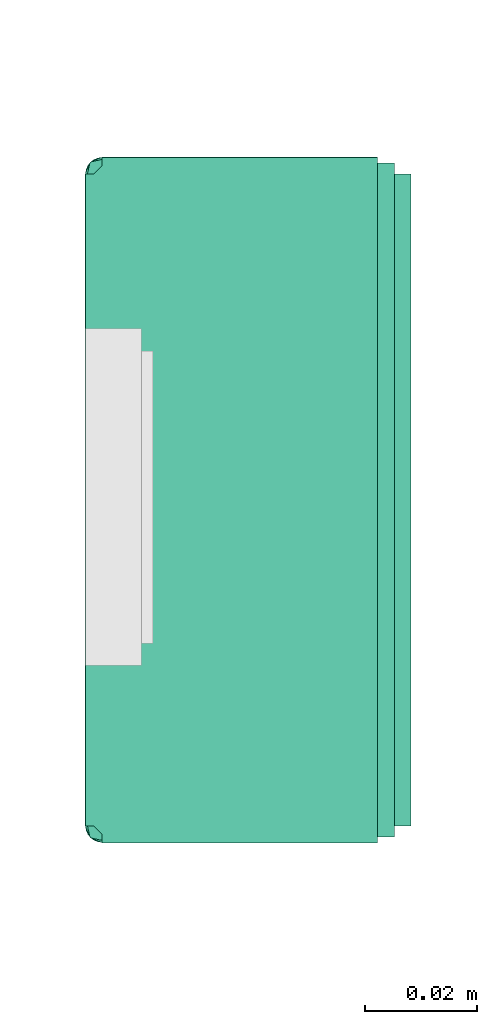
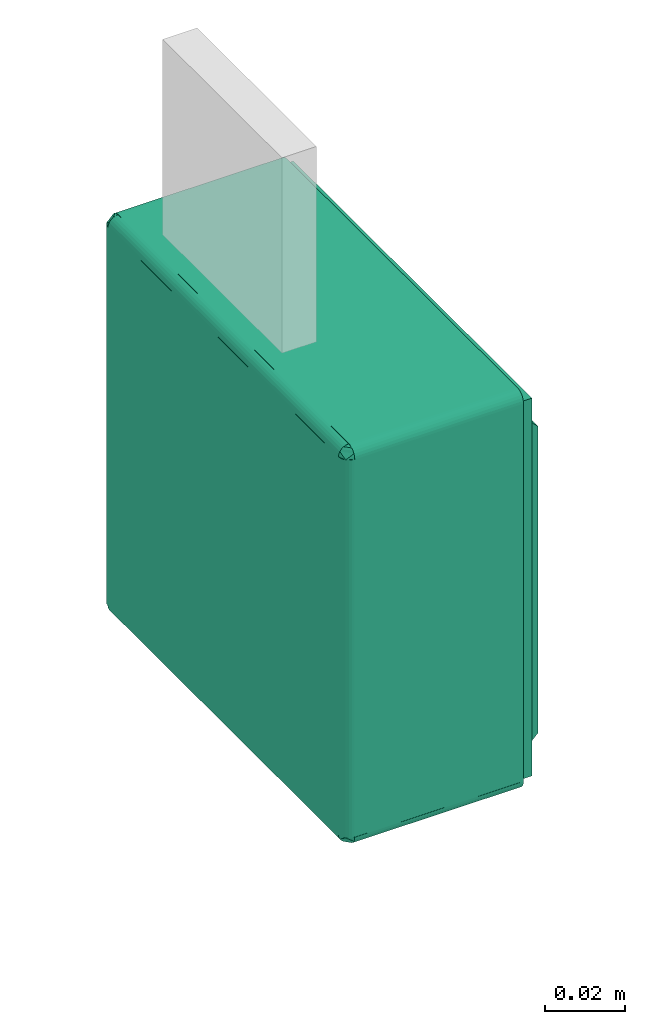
# One storey, part 5 of 5: 1 distribution control element.
"""IFC2X3 building model written with IfcOpenShell, lengths in millimetres."""

from ifc_helpers import new_model, entity, si_unit, converted_unit, derived_unit, direction, frame, origin_with_axes, place, context, subcontext, project, spatial, open_shell, surface_model, source, transform, mapped, type_object, element, save


model = new_model("IFC2X3")

# Units and contexts
model_context = context("Model", 3, precision=0.01, world=frame((0.0, 4.29681676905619e-09, 0.0)), true_north=direction((4.01073788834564e-13, 1.0)))
plan_context = context("Plan", 3, precision=0.01, world=frame((0.0, 4.29681676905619e-09, 0.0)), true_north=direction((4.01073788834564e-13, 1.0)))
body_context = subcontext(model_context, "Body", "Model", "MODEL_VIEW")
ifc_project = project(units=[converted_unit("PLANEANGLEUNIT", "DEGREE", entity("IfcPositiveLengthMeasure", 0.0174532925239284), si_unit("PLANEANGLEUNIT", "RADIAN"), dimensions=[0, 0, 0, 0, 0, 0, 0]), si_unit("AREAUNIT", "SQUARE_METRE"), si_unit("LENGTHUNIT", "METRE", prefix="MILLI"), si_unit("MASSUNIT", "GRAM", prefix="KILO"), si_unit("POWERUNIT", "WATT"), si_unit("PRESSUREUNIT", "PASCAL", prefix="KILO"), si_unit("FORCEUNIT", "NEWTON", prefix="KILO"), si_unit("ELECTRICVOLTAGEUNIT", "VOLT"), si_unit("ELECTRICCURRENTUNIT", "AMPERE"), si_unit("THERMODYNAMICTEMPERATUREUNIT", "DEGREE_CELSIUS"), si_unit("TIMEUNIT", "SECOND"), si_unit("VOLUMEUNIT", "CUBIC_METRE"), derived_unit("LINEARVELOCITYUNIT", [(si_unit("LENGTHUNIT", "METRE"), 1), (si_unit("TIMEUNIT", "SECOND"), -1)]), derived_unit("VOLUMETRICFLOWRATEUNIT", [(si_unit("VOLUMEUNIT", "CUBIC_METRE"), 1), (si_unit("TIMEUNIT", "SECOND"), -1)]), derived_unit("THERMALTRANSMITTANCEUNIT", [(si_unit("POWERUNIT", "WATT"), 1), (si_unit("THERMODYNAMICTEMPERATUREUNIT", "KELVIN"), -1), (si_unit("AREAUNIT", "SQUARE_METRE"), -1)]), derived_unit("SOUNDPRESSUREUNIT", [(si_unit("PRESSUREUNIT", "PASCAL"), 1)])], contexts=[model_context, plan_context])

# Site, building, storey
site_placement = place(None, frame((0.0, -4.29681676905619e-09, 0.0), z_axis=(0.0, 0.0, 1.0), x_axis=(1.0, 0.0, 0.0)))
site = spatial("IfcSite", under=ifc_project, at=site_placement, Name="ENGM", CompositionType="ELEMENT")
building_placement = place(site_placement, frame((0.0, 4.29681676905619e-09, 0.0), z_axis=(0.0, 0.0, 1.0), x_axis=(1.0, 0.0, 0.0)))
building = spatial("IfcBuilding", under=site, at=building_placement, Name="TI", CompositionType="ELEMENT")
storey_placement = place(building_placement, frame((0.0, 0.0, 210900.0), z_axis=(0.0, 0.0, 1.0), x_axis=(1.0, 0.0, 0.0)))
storey = spatial("IfcBuildingStorey", under=building, at=storey_placement, Name="Nivå F", CompositionType="ELEMENT", Elevation=210900.0)

# Distribution control element
alarm_type = type_object("IfcAlarmType", Name="CONTROL UNIT", PredefinedType="NOTDEFINED")
shared_shape = source(origin_with_axes(), body_context, "Body", "SurfaceModel", [
    surface_model("IfcShellBasedSurfaceModel", [(58.0, 55.0, -50.0), (50.05331, 55.0, -35.88319), (-49.94669, 55.0, -35.88319), (58.0, 55.0, 50.0), (-58.0, 55.0, -50.0), (-58.0, 55.0, 50.0), (50.05331, 55.0, 40.0), (-49.94669, 55.0, 40.0), (-58.0, 58.0, -47.0), (-49.94669, 58.0, -35.88319), (58.0, 58.0, -47.0), (-58.0, 58.0, 47.0), (50.05331, 58.0, -35.88319), (58.0, 58.0, 47.0), (-49.94669, 58.0, 40.0), (50.05331, 58.0, 40.0), (60.0, 52.03664, -58.0), (50.05331, 52.03664, -35.88319), (-49.94669, 52.03664, -35.88319), (60.0, 52.03664, 58.0), (-60.0, 52.03664, -58.0), (-60.0, 52.03664, 58.0), (50.05331, 52.03664, 40.0), (-49.94669, 52.03664, 40.0), (60.0, 55.03664, 58.0), (50.05331, 55.03664, 40.0), (-49.94669, 55.03664, 40.0), (50.05331, 55.03664, -35.88319), (-60.0, 55.03664, 58.0), (-49.94669, 55.03664, -35.88319), (60.0, 55.03664, -58.0), (-60.0, 55.03664, -58.0), (61.0, 52.0, -58.0), (50.05331, 52.0, -35.88319), (61.0, 52.0, 58.0), (-49.94669, 52.0, -35.88319), (50.05331, 52.0, 40.0), (-49.94669, 52.0, 40.0), (-61.0, 52.0, -58.0), (-61.0, 52.0, 58.0), (-61.0, 3.0, 58.0), (-61.0, 3.0, -58.0), (61.0, 3.0, 58.0), (61.0, 3.0, -58.0), (50.05331, 48.40679, 40.0), (-49.94669, 48.40679, 40.0), (-49.94669, 48.40679, -35.88319), (50.05331, 48.40679, -35.88319), (-58.0, 3.0, -58.0), (-58.0, 1.5, -60.59808), (-58.0, 2.22354, -60.89778), (-58.0, 0.87868, -60.12132), (-58.0, 3.0, -61.0), (-58.0, 0.40192, -59.5), (-58.0, 0.10222, -58.77646), (-58.0, 0.0, -58.0), (-58.77646, 3.0, -60.89778), (-59.5, 3.0, -60.59808), (-60.12132, 3.0, -60.12132), (-60.89778, 3.0, -58.77646), (-60.59808, 3.0, -59.5), (-60.12132, 0.87868, -58.0), (58.0, 3.0, -58.0), (-58.0, 52.0, -58.0), (58.0, 52.0, -58.0), (-58.0, 52.0, -61.0), (58.0, 52.0, -61.0), (58.0, 3.0, -61.0), (59.5, 3.0, -60.59808), (58.77646, 3.0, -60.89778), (60.12132, 3.0, -60.12132), (60.89778, 3.0, -58.77646), (60.59808, 3.0, -59.5), (58.0, 2.22354, -60.89778), (58.0, 1.5, -60.59808), (58.0, 0.87868, -60.12132), (58.0, 0.10222, -58.77646), (58.0, 0.40192, -59.5), (58.0, 0.0, -58.0), (60.12132, 0.87868, -58.0), (60.93149, 52.0, -58.78549), (60.6283, 52.0, -59.51745), (60.146, 52.0, -60.146), (61.03491, 52.0, -58.0), (59.51745, 52.0, -60.6283), (58.78549, 52.0, -60.93149), (58.0, 52.0, -61.03491), (60.6283, 3.0, -59.51745), (60.93149, 3.0, -58.78549), (60.146, 3.0, -60.146), (61.03491, 3.0, -58.0), (58.78549, 3.0, -60.93149), (59.51745, 3.0, -60.6283), (58.0, 3.0, -61.03491), (-58.0, 0.14042, -58.76622), (-58.0, 0.03955, -58.0), (-58.0, 0.90664, -60.09336), (-58.0, 0.43617, -59.48023), (-58.0, 1.51977, -60.56383), (-58.0, 2.23378, -60.85958), (-58.0, 3.0, -60.96045), (58.0, 0.03955, -58.0), (58.0, 0.14042, -58.76622), (58.0, 0.43617, -59.48023), (58.0, 0.90664, -60.09336), (58.0, 2.23378, -60.85958), (58.0, 1.51977, -60.56383), (58.0, 3.0, -60.96045), (-57.99994, 52.0, -58.00004), (-60.85952, 52.0, -58.76627), (-60.96039, 52.0, -58.00004), (-60.09329, 52.0, -60.0934), (-60.56376, 52.0, -59.48027), (-59.48016, 52.0, -60.56387), (-58.76616, 52.0, -60.85963), (-57.99994, 52.0, -60.9605), (-60.96039, 3.0, -58.00004), (-60.85952, 3.0, -58.76627), (-57.99994, 3.0, -58.00004), (-60.56376, 3.0, -59.48027), (-60.09329, 3.0, -60.0934), (-58.76616, 3.0, -60.85963), (-59.48016, 3.0, -60.56387), (-57.99994, 3.0, -60.9605), (58.0, 3.0, 61.0), (58.77646, 3.0, 60.89778), (58.0, 3.0, 58.0), (59.5, 3.0, 60.59808), (60.12132, 3.0, 60.12132), (60.89778, 3.0, 58.77646), (60.59808, 3.0, 59.5), (58.0, 2.22354, 60.89778), (58.0, 0.87868, 60.12132), (58.0, 1.5, 60.59808), (58.0, 0.40192, 59.5), (58.0, 0.10222, 58.77646), (58.0, 0.0, 58.0), (60.12132, 0.87868, 58.0), (-58.0, 3.0, 58.0), (-59.5, 3.0, 60.59808), (-58.77646, 3.0, 60.89778), (-60.12132, 3.0, 60.12132), (-58.0, 3.0, 61.0), (-60.89778, 3.0, 58.77646), (-60.59808, 3.0, 59.5), (-58.0, 2.22354, 60.89778), (-58.0, 1.5, 60.59808), (-58.0, 0.87868, 60.12132), (-58.0, 0.40192, 59.5), (-58.0, 0.10222, 58.77646), (-58.0, 0.0, 58.0), (-60.12132, 0.87868, 58.0), (58.0, 52.0, 61.0), (-58.0, 52.0, 61.0), (-58.0, 52.0, 58.0), (58.0, 52.0, 58.0), (60.93149, 3.0, 58.78549), (60.6283, 3.0, 59.51745), (60.146, 3.0, 60.146), (61.03491, 3.0, 58.0), (58.78549, 3.0, 60.93149), (59.51745, 3.0, 60.6283), (58.0, 3.0, 61.03491), (60.6283, 52.0, 59.51745), (60.93149, 52.0, 58.78549), (60.146, 52.0, 60.146), (61.03491, 52.0, 58.0), (59.51745, 52.0, 60.6283), (58.78549, 52.0, 60.93149), (58.0, 52.0, 61.03491), (57.99759, 3.00092, -58.0), (58.76381, 0.14134, -58.0), (57.99759, 0.04046, -58.0), (60.09094, 0.90756, -58.0), (59.47781, 0.43709, -58.0), (60.56141, 1.52069, -58.0), (60.85716, 2.2347, -58.0), (60.95804, 3.00092, -58.0), (57.99759, 0.04046, 58.0), (58.76381, 0.14134, 58.0), (57.99759, 3.00092, 58.0), (59.47781, 0.43709, 58.0), (60.09094, 0.90756, 58.0), (60.85716, 2.2347, 58.0), (60.56141, 1.52069, 58.0), (60.95804, 3.00092, 58.0), (58.0, 3.004, 58.0008), (58.0, 0.14442, 58.76702), (58.0, 0.04355, 58.0008), (58.0, 0.91064, 60.09415), (58.0, 0.44017, 59.48102), (58.0, 1.52377, 60.56462), (58.0, 2.23778, 60.86037), (58.0, 3.004, 60.96125), (-58.0, 0.04355, 58.0008), (-58.0, 0.14442, 58.76702), (-58.0, 3.004, 58.0008), (-58.0, 0.44017, 59.48102), (-58.0, 0.91064, 60.09415), (-58.0, 2.23778, 60.86037), (-58.0, 1.52377, 60.56462), (-58.0, 3.004, 60.96125), (-58.76623, 0.14041, 58.0), (-58.0, 0.03954, 58.0), (-60.09336, 0.90664, 58.0), (-59.48023, 0.43616, 58.0), (-60.56383, 1.51977, 58.0), (-60.85958, 2.23377, 58.0), (-60.96046, 2.99999, 58.0), (-58.76623, 0.14041, -58.0), (-59.48023, 0.43616, -58.0), (-60.09336, 0.90664, -58.0), (-60.85958, 2.23377, -58.0), (-60.56383, 1.51977, -58.0), (-60.96046, 2.99999, -58.0), (-60.85958, 3.0, 58.76622), (-60.09336, 3.0, 60.09336), (-60.56383, 3.0, 59.48023), (-59.48023, 3.0, 60.56383), (-58.76622, 3.0, 60.85958), (-58.0, 3.0, 60.96045), (-60.96045, 52.0, 58.0), (-60.85958, 52.0, 58.76622), (-60.56383, 52.0, 59.48023), (-60.09336, 52.0, 60.09336), (-58.76622, 52.0, 60.85958), (-59.48023, 52.0, 60.56383), (-58.0, 52.0, 60.96045)], [open_shell([[[0, 1, 2]], [[1, 0, 3]], [[4, 2, 5]], [[2, 4, 0]], [[6, 3, 7]], [[3, 6, 1]], [[7, 5, 2]], [[5, 7, 3]], [[8, 9, 10]], [[9, 8, 11]], [[10, 12, 13]], [[12, 10, 9]], [[14, 11, 13]], [[11, 14, 9]], [[15, 13, 12]], [[13, 15, 14]], [[0, 10, 13]], [[13, 3, 0]], [[3, 13, 11]], [[11, 5, 3]], [[5, 11, 4]], [[8, 4, 11]], [[4, 8, 10]], [[10, 0, 4]], [[14, 15, 6]], [[6, 7, 14]], [[12, 9, 2]], [[2, 1, 12]], [[2, 14, 7]], [[14, 2, 9]], [[1, 6, 15]], [[15, 12, 1]], [[16, 17, 18]], [[17, 16, 19]], [[20, 18, 21]], [[18, 20, 16]], [[22, 19, 23]], [[19, 22, 17]], [[23, 21, 18]], [[21, 23, 19]], [[24, 25, 26]], [[25, 24, 27]], [[28, 26, 29]], [[26, 28, 24]], [[27, 30, 29]], [[30, 27, 24]], [[29, 31, 28]], [[31, 29, 30]], [[19, 16, 30]], [[30, 24, 19]], [[21, 19, 24]], [[24, 28, 21]], [[20, 21, 28]], [[28, 31, 20]], [[16, 20, 31]], [[31, 30, 16]], [[26, 25, 22]], [[22, 23, 26]], [[27, 29, 18]], [[18, 17, 27]], [[29, 26, 23]], [[23, 18, 29]], [[17, 22, 25]], [[25, 27, 17]], [[32, 33, 34]], [[33, 32, 35]], [[34, 36, 37]], [[36, 34, 33]], [[35, 38, 39]], [[38, 35, 32]], [[37, 39, 34]], [[39, 37, 35]], [[40, 41, 42]], [[43, 42, 41]], [[38, 32, 43]], [[43, 41, 38]], [[39, 38, 41]], [[41, 40, 39]], [[34, 39, 40]], [[40, 42, 34]], [[32, 34, 42]], [[42, 43, 32]], [[37, 36, 44]], [[44, 45, 37]], [[33, 35, 46]], [[46, 47, 33]], [[46, 37, 45]], [[37, 46, 35]], [[46, 45, 44]], [[44, 47, 46]], [[47, 44, 36]], [[36, 33, 47]], [[48, 49, 50]], [[49, 48, 51]], [[50, 52, 48]], [[53, 48, 54]], [[51, 48, 53]], [[54, 48, 55]], [[56, 57, 48]], [[58, 48, 57]], [[48, 52, 56]], [[59, 48, 60]], [[60, 48, 58]], [[41, 48, 59]], [[61, 48, 41]], [[48, 61, 55]], [[51, 53, 58]], [[49, 51, 57]], [[54, 61, 53]], [[50, 49, 52]], [[54, 55, 61]], [[61, 41, 59]], [[61, 59, 60]], [[57, 51, 58]], [[53, 60, 58]], [[49, 57, 52]], [[52, 57, 56]], [[53, 61, 60]], [[48, 62, 63]], [[64, 63, 62]], [[65, 66, 52]], [[67, 52, 66]], [[64, 62, 67]], [[67, 66, 64]], [[63, 64, 66]], [[66, 65, 63]], [[48, 63, 65]], [[65, 52, 48]], [[62, 48, 52]], [[52, 67, 62]], [[62, 68, 69]], [[68, 62, 70]], [[69, 67, 62]], [[71, 72, 62]], [[70, 62, 72]], [[62, 43, 71]], [[73, 74, 62]], [[75, 62, 74]], [[62, 67, 73]], [[76, 62, 77]], [[77, 62, 75]], [[78, 62, 76]], [[79, 62, 78]], [[62, 79, 43]], [[72, 75, 70]], [[74, 68, 70]], [[79, 72, 71]], [[69, 68, 67]], [[71, 43, 79]], [[79, 78, 76]], [[79, 76, 77]], [[74, 70, 75]], [[72, 77, 75]], [[68, 74, 67]], [[67, 74, 73]], [[72, 79, 77]], [[80, 81, 64]], [[82, 64, 81]], [[64, 83, 80]], [[64, 84, 85]], [[84, 64, 82]], [[85, 86, 64]], [[62, 87, 88]], [[87, 62, 89]], [[88, 90, 62]], [[91, 92, 62]], [[89, 62, 92]], [[62, 93, 91]], [[64, 86, 62]], [[93, 62, 86]], [[83, 64, 62]], [[62, 90, 83]], [[88, 87, 80]], [[90, 88, 83]], [[83, 88, 80]], [[80, 87, 81]], [[87, 82, 81]], [[87, 89, 82]], [[91, 93, 86]], [[92, 91, 85]], [[92, 82, 89]], [[92, 84, 82]], [[84, 92, 85]], [[91, 86, 85]], [[48, 94, 95]], [[96, 97, 48]], [[94, 48, 97]], [[98, 48, 99]], [[99, 48, 100]], [[96, 48, 98]], [[101, 102, 62]], [[62, 103, 104]], [[103, 62, 102]], [[105, 62, 106]], [[107, 62, 105]], [[106, 62, 104]], [[48, 95, 62]], [[101, 62, 95]], [[100, 48, 107]], [[62, 107, 48]], [[99, 107, 105]], [[98, 105, 106]], [[100, 107, 99]], [[99, 105, 98]], [[106, 96, 98]], [[106, 104, 96]], [[94, 103, 102]], [[95, 102, 101]], [[104, 97, 96]], [[104, 103, 97]], [[97, 103, 94]], [[102, 95, 94]], [[108, 109, 110]], [[111, 112, 108]], [[109, 108, 112]], [[113, 108, 114]], [[114, 108, 115]], [[111, 108, 113]], [[116, 117, 118]], [[118, 119, 120]], [[119, 118, 117]], [[121, 118, 122]], [[123, 118, 121]], [[122, 118, 120]], [[108, 110, 116]], [[116, 118, 108]], [[115, 108, 118]], [[118, 123, 115]], [[121, 122, 113]], [[123, 121, 115]], [[115, 121, 114]], [[120, 111, 113]], [[121, 113, 114]], [[113, 122, 120]], [[117, 116, 110]], [[119, 117, 109]], [[120, 112, 111]], [[120, 119, 112]], [[112, 119, 109]], [[117, 110, 109]], [[124, 125, 126]], [[126, 127, 128]], [[127, 126, 125]], [[129, 126, 130]], [[42, 126, 129]], [[130, 126, 128]], [[126, 131, 124]], [[132, 133, 126]], [[131, 126, 133]], [[134, 126, 135]], [[135, 126, 136]], [[132, 126, 134]], [[137, 129, 130]], [[134, 130, 128]], [[127, 125, 124]], [[127, 132, 128]], [[42, 129, 137]], [[127, 124, 133]], [[124, 131, 133]], [[134, 128, 132]], [[127, 133, 132]], [[130, 134, 137]], [[135, 136, 137]], [[135, 137, 134]], [[136, 126, 137]], [[42, 137, 126]], [[138, 139, 140]], [[139, 138, 141]], [[140, 142, 138]], [[143, 144, 138]], [[141, 138, 144]], [[138, 40, 143]], [[145, 146, 138]], [[147, 138, 146]], [[138, 142, 145]], [[138, 148, 149]], [[148, 138, 147]], [[149, 150, 138]], [[151, 138, 150]], [[138, 151, 40]], [[141, 144, 147]], [[139, 141, 146]], [[143, 151, 144]], [[140, 139, 142]], [[143, 40, 151]], [[151, 150, 149]], [[151, 149, 148]], [[146, 141, 147]], [[144, 148, 147]], [[139, 146, 142]], [[142, 146, 145]], [[144, 151, 148]], [[124, 152, 142]], [[153, 142, 152]], [[138, 154, 126]], [[155, 126, 154]], [[153, 152, 155]], [[155, 154, 153]], [[142, 153, 154]], [[154, 138, 142]], [[124, 142, 138]], [[138, 126, 124]], [[152, 124, 126]], [[126, 155, 152]], [[156, 157, 126]], [[158, 126, 157]], [[126, 159, 156]], [[160, 126, 161]], [[161, 126, 158]], [[162, 126, 160]], [[155, 163, 164]], [[163, 155, 165]], [[164, 166, 155]], [[167, 155, 168]], [[165, 155, 167]], [[168, 155, 169]], [[126, 162, 169]], [[169, 155, 126]], [[159, 126, 155]], [[155, 166, 159]], [[164, 163, 156]], [[166, 164, 159]], [[159, 164, 156]], [[156, 163, 157]], [[163, 158, 157]], [[163, 165, 158]], [[168, 169, 162]], [[167, 168, 160]], [[167, 158, 165]], [[167, 161, 158]], [[161, 167, 160]], [[168, 162, 160]], [[170, 171, 172]], [[173, 174, 170]], [[171, 170, 174]], [[175, 170, 176]], [[176, 170, 177]], [[173, 170, 175]], [[178, 179, 180]], [[180, 181, 182]], [[181, 180, 179]], [[183, 180, 184]], [[185, 180, 183]], [[184, 180, 182]], [[170, 172, 180]], [[178, 180, 172]], [[177, 170, 185]], [[180, 185, 170]], [[176, 185, 183]], [[175, 183, 184]], [[177, 185, 176]], [[176, 183, 175]], [[184, 173, 175]], [[184, 182, 173]], [[171, 181, 179]], [[172, 179, 178]], [[182, 174, 173]], [[182, 181, 174]], [[174, 181, 171]], [[179, 172, 171]], [[186, 187, 188]], [[189, 190, 186]], [[187, 186, 190]], [[191, 186, 192]], [[192, 186, 193]], [[189, 186, 191]], [[194, 195, 196]], [[196, 197, 198]], [[197, 196, 195]], [[199, 196, 200]], [[201, 196, 199]], [[200, 196, 198]], [[186, 188, 196]], [[194, 196, 188]], [[193, 186, 201]], [[196, 201, 186]], [[192, 201, 199]], [[191, 199, 200]], [[193, 201, 192]], [[192, 199, 191]], [[200, 189, 191]], [[200, 198, 189]], [[187, 197, 195]], [[188, 195, 194]], [[198, 190, 189]], [[198, 197, 190]], [[190, 197, 187]], [[195, 188, 187]], [[138, 202, 203]], [[204, 205, 138]], [[202, 138, 205]], [[206, 138, 207]], [[207, 138, 208]], [[204, 138, 206]], [[95, 209, 48]], [[48, 210, 211]], [[210, 48, 209]], [[212, 48, 213]], [[214, 48, 212]], [[213, 48, 211]], [[138, 203, 48]], [[95, 48, 203]], [[208, 138, 214]], [[48, 214, 138]], [[207, 214, 212]], [[206, 212, 213]], [[208, 214, 207]], [[207, 212, 206]], [[213, 204, 206]], [[213, 211, 204]], [[202, 210, 209]], [[203, 209, 95]], [[211, 205, 204]], [[211, 210, 205]], [[205, 210, 202]], [[209, 203, 202]], [[138, 215, 208]], [[216, 217, 138]], [[215, 138, 217]], [[218, 138, 219]], [[219, 138, 220]], [[216, 138, 218]], [[221, 222, 154]], [[154, 223, 224]], [[223, 154, 222]], [[225, 154, 226]], [[227, 154, 225]], [[226, 154, 224]], [[138, 208, 154]], [[221, 154, 208]], [[220, 138, 154]], [[154, 227, 220]], [[225, 226, 218]], [[227, 225, 220]], [[220, 225, 219]], [[224, 216, 218]], [[225, 218, 219]], [[218, 226, 224]], [[222, 221, 208]], [[223, 222, 215]], [[224, 217, 216]], [[224, 223, 217]], [[217, 223, 215]], [[222, 208, 215]], [[55, 78, 150]], [[136, 150, 78]], [[138, 126, 48]], [[62, 48, 126]], [[136, 78, 62]], [[62, 126, 136]], [[150, 136, 126]], [[126, 138, 150]], [[55, 150, 138]], [[138, 48, 55]], [[78, 55, 48]], [[48, 62, 78]]])]),
])
distribution_control_element_placement = place(storey_placement, frame((585718.59721, 576623.73535, 785.0), z_axis=(0.0, 0.0, 1.0), x_axis=(0.0, -1.0, 0.0)))
element("IfcDistributionControlElement", 1, at=distribution_control_element_placement, inside=storey, type_object=alarm_type, Name="CONTROL UNIT", context=body_context, shape_type="MappedRepresentation", body=[
    mapped(shared_shape, transform((0.0, 0.0, 0.0), scale=1.0)),
])

save(model, "model.ifc")
